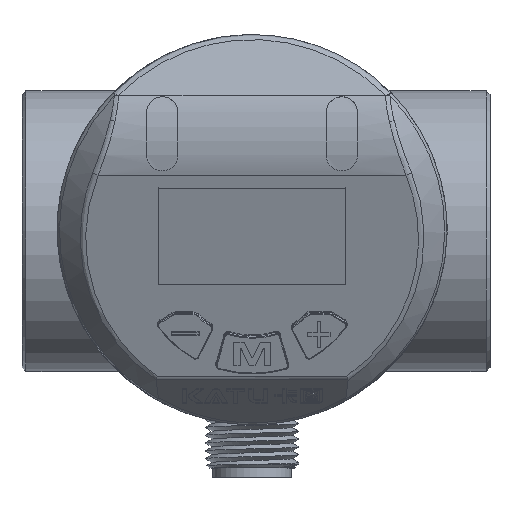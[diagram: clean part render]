
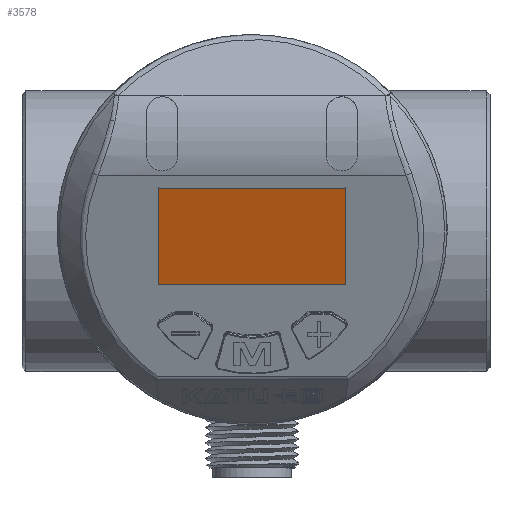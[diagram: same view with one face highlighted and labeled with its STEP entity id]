
A CAD part, top view. The second image highlights one B-rep face of the part: STEP entity #3578.
In plain terms, the highlighted planar face has unit normal (0, -0.342, 0.94).
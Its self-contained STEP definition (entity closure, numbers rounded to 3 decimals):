
#1254=LINE('',#18543,#2004);
#1255=LINE('',#18546,#2005);
#1256=LINE('',#18548,#2006);
#1257=LINE('',#18550,#2007);
#2004=VECTOR('',#13153,1.);
#2005=VECTOR('',#13154,1.);
#2006=VECTOR('',#13155,1.);
#2007=VECTOR('',#13156,1.);
#3578=ADVANCED_FACE('',(#4456),#4066,.T.);
#4066=PLANE('',#11541);
#4456=FACE_OUTER_BOUND('',#5115,.T.);
#5115=EDGE_LOOP('',(#6494,#6495,#6496,#6497));
#6494=ORIENTED_EDGE('',*,*,#9827,.T.);
#6495=ORIENTED_EDGE('',*,*,#9828,.T.);
#6496=ORIENTED_EDGE('',*,*,#9829,.T.);
#6497=ORIENTED_EDGE('',*,*,#9830,.T.);
#8728=VERTEX_POINT('',#18544);
#8729=VERTEX_POINT('',#18545);
#8730=VERTEX_POINT('',#18547);
#8731=VERTEX_POINT('',#18549);
#9827=EDGE_CURVE('',#8728,#8729,#1254,.T.);
#9828=EDGE_CURVE('',#8729,#8730,#1255,.T.);
#9829=EDGE_CURVE('',#8730,#8731,#1256,.T.);
#9830=EDGE_CURVE('',#8731,#8728,#1257,.T.);
#11541=AXIS2_PLACEMENT_3D('',#18551,#13157,#13158);
#13153=DIRECTION('',(0.,-0.94,-0.342));
#13154=DIRECTION('',(1.,0.,0.));
#13155=DIRECTION('',(0.,0.94,0.342));
#13156=DIRECTION('',(-1.,0.,0.));
#13157=DIRECTION('',(0.,-0.342,0.94));
#13158=DIRECTION('',(0.,0.94,0.342));
#18543=CARTESIAN_POINT('',(18.994,14.306,121.2));
#18544=CARTESIAN_POINT('',(18.998,5.258,117.907));
#18545=CARTESIAN_POINT('',(19.003,-7.061,113.423));
#18546=CARTESIAN_POINT('',(46.759,-7.051,113.427));
#18547=CARTESIAN_POINT('',(42.997,-7.052,113.426));
#18548=CARTESIAN_POINT('',(42.988,14.315,121.203));
#18549=CARTESIAN_POINT('',(42.992,5.267,117.91));
#18550=CARTESIAN_POINT('',(46.753,5.268,117.91));
#18551=CARTESIAN_POINT('',(46.75,14.316,121.204));
